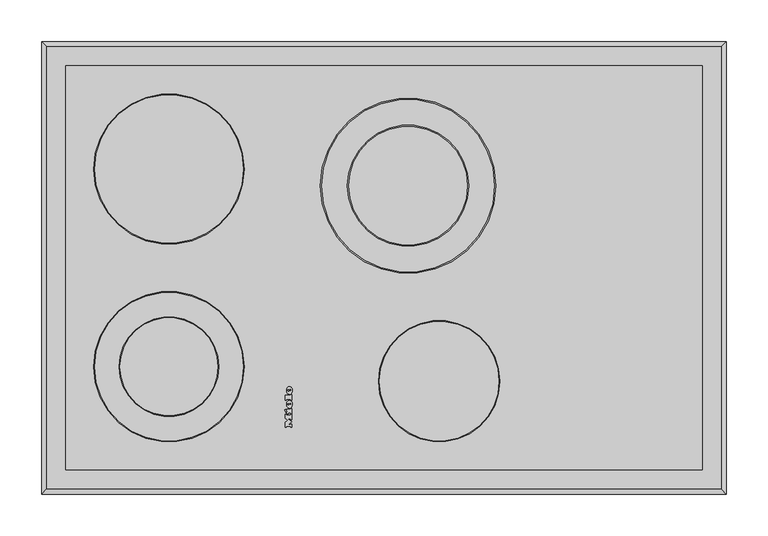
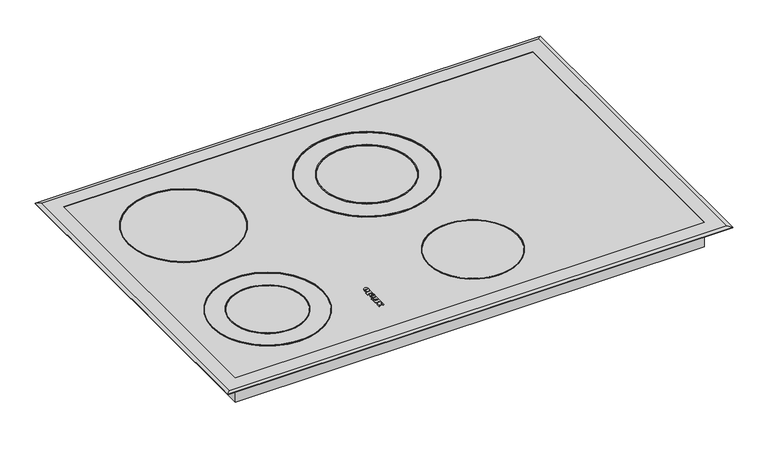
"""IFC4 building model written with IfcOpenShell, lengths in millimetres: proxy geometry, 06946450_CH_KM6039 : 26603950_CH_6946450_KM6039."""

from ifc_helpers import new_model, si_unit, point, frame, frame_2d, origin, origin_with_axes, place, context, project, spatial, polyline, circle_curve, ellipse_curve, trimmed, segment, composite_curve, outline, extrude, faceted_brep, source, transform, mapped, element, save
from ifc_brep_helpers import plane_surface, cylinder_surface, revolved_surface, extruded_surface, advanced_brep


def specialty_equipment_13e576dc(model_context):
    return source(origin(), model_context, "Body", "SolidModel", [
        extrude(outline(polyline([(-117.5714783, 80.6959278), (-118.8754783, 80.6959278), (-118.8754783, 86.2719278), (-115.8754783, 88.6159278), (-118.8754783, 90.9519278), (-118.8754783, 95.8239278), (-117.5714783, 95.8239278), (-117.5714783, 94.8079278), (-112.2194783, 94.8079278), (-112.2194783, 95.8239278), (-110.8754783, 95.8239278), (-110.8754783, 89.4399278), (-112.2194783, 89.4399278), (-112.2194783, 90.4239278), (-115.6907006, 90.4239278), (-110.8754783, 86.8319278), (-115.622603, 83.2559278), (-112.2194783, 83.2559278), (-112.2194783, 84.2159278), (-110.8754783, 84.2159278), (-110.8754783, 80.6959278), (-112.2194783, 80.6959278), (-112.2194783, 81.6639278), (-117.5714783, 81.6639278), (-117.5714783, 80.6959278)])), frame((0.0, 0.0, 1.0), z_axis=(0.0, 0.0, 1.0), x_axis=(1.0, 0.0, 0.0)), (0.0, 0.0, 1.0), 1.0),
        extrude(outline(polyline([(-117.5714783, 113.1599278), (-118.8754783, 113.1599278), (-118.8754783, 118.6639278), (-112.2194783, 118.6639278), (-112.2194783, 119.6479278), (-110.8754783, 119.6479278), (-110.8754783, 113.1599278), (-112.2194783, 113.1599278), (-112.2194783, 114.1199278), (-117.5714783, 114.1199278), (-117.5714783, 113.1599278)])), frame((0.0, 0.0, 1.0), z_axis=(0.0, 0.0, 1.0), x_axis=(1.0, 0.0, 0.0)), (0.0, 0.0, 1.0), 1.0),
        extrude(outline(polyline([(-118.4034783, 98.6159278), (-119.6674783, 101.3359278), (-118.3714783, 101.9359278), (-117.1074783, 99.2239278), (-118.4034783, 98.6159278)])), frame((0.0, 0.0, 1.0), z_axis=(0.0, 0.0, 1.0), x_axis=(1.0, 0.0, 0.0)), (0.0, 0.0, 1.0), 1.0),
        extrude(outline(polyline([(-116.9314783, 96.6399278), (-116.9314783, 102.0239278), (-112.2194783, 102.0239278), (-112.2194783, 102.9519278), (-110.8754783, 102.9519278), (-110.8754783, 96.6399278), (-112.2194783, 96.6399278), (-112.2194783, 97.5919278), (-115.4994783, 97.5919278), (-115.4994783, 96.6399278), (-116.9314783, 96.6399278)])), frame((0.0, 0.0, 1.0), z_axis=(0.0, 0.0, 1.0), x_axis=(1.0, 0.0, 0.0)), (0.0, 0.0, 1.0), 1.0),
        advanced_brep(
        [(-112.7714783, 107.3599278, 2.0), (-113.5794783, 107.3599278, 2.0), (-113.5794783, 112.7119278, 2.0), (-113.5794783, 103.3999278, 2.0), (-110.8754783, 105.5999278, 2.0), (-112.7714783, 112.5759278, 2.0), (-112.7714783, 110.1599278, 2.0), (-111.8754783, 108.2559278, 2.0), (-114.6034783, 107.3599278, 2.0), (-115.4754783, 107.3599278, 2.0), (-115.4754783, 108.7279278, 2.0), (-114.6034783, 108.7279278, 2.0), (-112.7714783, 107.3599278, 1.0), (-111.8754783, 108.2559278, 1.0), (-112.7714783, 110.1599278, 1.0), (-112.7714783, 112.5759278, 1.0), (-110.8754783, 105.5999278, 1.0), (-113.5794783, 103.3999278, 1.0), (-113.5794783, 112.7119278, 1.0), (-113.5794783, 107.3599278, 1.0), (-114.6034783, 107.3599278, 1.0), (-114.6034783, 108.7279278, 1.0), (-115.4754783, 108.7279278, 1.0), (-115.4754783, 107.3599278, 1.0)],
        [
            (0, 1),
            (1, 2),
            (2, 3, ellipse_curve(frame((-113.5794783, 108.0559278, 2.0), z_axis=(0.0, 0.0, 1.0), x_axis=(0.0, -1.0, 0.0)), 4.656, 3.848)),
            (3, 4, circle_curve(frame((-113.8514783, 106.4959715, 2.0), z_axis=(0.0, 0.0, 1.0), x_axis=(1.0, 0.0, 0.0)), 3.1079688)),
            (4, 5, circle_curve(frame((-115.9634783, 107.9627214, 2.0), z_axis=(0.0, 0.0, 1.0), x_axis=(1.0, 0.0, 0.0)), 5.6098607)),
            (5, 6),
            (6, 7, circle_curve(frame((-113.5154783, 108.6469866, 2.0), z_axis=(0.0, 0.0, -1.0), x_axis=(1.0, 0.0, 0.0)), 1.6859795)),
            (7, 0, circle_curve(frame((-112.7714783, 108.2559278, 2.0), z_axis=(0.0, 0.0, -1.0), x_axis=(1.0, 0.0, 0.0)), 0.896)),
            (8, 9),
            (9, 10, circle_curve(frame((-115.4754783, 108.0439278, 2.0), z_axis=(0.0, 0.0, -1.0), x_axis=(1.0, 0.0, 0.0)), 0.684)),
            (10, 11),
            (11, 8),
            (12, 13, circle_curve(frame((-112.7714783, 108.2559278, 1.0), z_axis=(0.0, 0.0, 1.0), x_axis=(1.0, 0.0, 0.0)), 0.896)),
            (13, 14, circle_curve(frame((-113.5154783, 108.6469866, 1.0), z_axis=(0.0, 0.0, 1.0), x_axis=(1.0, 0.0, 0.0)), 1.6859795)),
            (14, 15),
            (15, 16, circle_curve(frame((-115.9634783, 107.9627214, 1.0), z_axis=(0.0, 0.0, -1.0), x_axis=(1.0, 0.0, 0.0)), 5.6098607)),
            (16, 17, circle_curve(frame((-113.8514783, 106.4959715, 1.0), z_axis=(0.0, 0.0, -1.0), x_axis=(1.0, 0.0, 0.0)), 3.1079688)),
            (17, 18, ellipse_curve(frame((-113.5794783, 108.0559278, 1.0), z_axis=(0.0, 0.0, -1.0), x_axis=(0.0, -1.0, 0.0)), 4.656, 3.848)),
            (18, 19),
            (19, 12),
            (20, 21),
            (21, 22),
            (22, 23, circle_curve(frame((-115.4754783, 108.0439278, 1.0), z_axis=(0.0, 0.0, 1.0), x_axis=(1.0, 0.0, 0.0)), 0.684)),
            (23, 20),
            (0, 12),
            (19, 1),
            (18, 2),
            (5, 15),
            (14, 6),
            (17, 3),
            (13, 7),
            (16, 4),
            (8, 20),
            (23, 9),
            (22, 10),
            (21, 11),
        ],
        [
            plane_surface(frame((-113.5794783, 107.3599278, 2.0), z_axis=(0.0, 0.0, 1.0), x_axis=(-1.0, 0.0, 0.0))),
            plane_surface(frame((-113.5794783, 107.3599278, 1.0), z_axis=(0.0, 0.0, -1.0), x_axis=(1.0, 0.0, 0.0))),
            plane_surface(frame((-112.7714783, 107.3599278, 2.0), z_axis=(0.0, 1.0, 0.0), x_axis=(0.0, 0.0, -1.0))),
            plane_surface(frame((-113.5794783, 107.3599278, 2.0), z_axis=(1.0, 0.0, 0.0), x_axis=(0.0, 0.0, -1.0))),
            plane_surface(frame((-112.7714783, 112.5759278, 2.0), z_axis=(-1.0, 0.0, 0.0), x_axis=(0.0, 0.0, -1.0))),
            extruded_surface(trimmed(ellipse_curve(frame((-113.5794783, 108.0559278, 0.0), z_axis=(0.0, 0.0, 1.0), x_axis=(0.0, -1.0, 0.0)), 4.656, 3.848), [point((-113.5794783, 112.7119278, 0.0))], [point((-113.5794783, 103.3999278, 0.0))], True, "CARTESIAN"), (0.0, 0.0, 1.0), 1.0),
            revolved_surface(polyline([(-111.8294988, 108.6469866, 1.0), (-111.8294988, 108.6469866, 2.0)]), (-113.5154783, 108.6469866, 1.0), (0.0, 0.0, -1.0)),
            revolved_surface(polyline([(-111.8754783, 108.2559278, 1.0), (-111.8754783, 108.2559278, 2.0)]), (-112.7714783, 108.2559278, 1.0), (0.0, 0.0, -1.0)),
            cylinder_surface(frame((-113.8514783, 106.4959715, 1.0), z_axis=(0.0, 0.0, 1.0), x_axis=(1.0, 0.0, 0.0)), 3.1079688),
            cylinder_surface(frame((-115.9634783, 107.9627214, 1.0), z_axis=(0.0, 0.0, 1.0), x_axis=(1.0, 0.0, 0.0)), 5.6098607),
            plane_surface(frame((-114.6034783, 107.3599278, 2.0), z_axis=(0.0, 1.0, 0.0), x_axis=(0.0, 0.0, -1.0))),
            revolved_surface(polyline([(-114.79147830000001, 108.0439278, 1.0), (-114.79147830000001, 108.0439278, 2.0)]), (-115.4754783, 108.0439278, 1.0), (0.0, 0.0, -1.0)),
            plane_surface(frame((-115.4754783, 108.7279278, 2.0), z_axis=(0.0, -1.0, 0.0), x_axis=(0.0, 0.0, -1.0))),
            plane_surface(frame((-114.6034783, 108.7279278, 2.0), z_axis=(-1.0, 0.0, 0.0), x_axis=(0.0, 0.0, -1.0))),
        ],
        [
            (0, [[1, 2, 3, 4, 5, 6, 7, 8], [9, 10, 11, 12]]),
            (1, [[13, 14, 15, 16, 17, 18, 19, 20], [21, 22, 23, 24]]),
            (2, [[-1, 25, -20, 26]]),
            (3, [[-2, -26, -19, 27]]),
            (4, [[-6, 28, -15, 29]]),
            (5, [[-3, -27, -18, 30]]),
            (6, [[-7, -29, -14, 31]]),
            (7, [[-8, -31, -13, -25]]),
            (8, [[-4, -30, -17, 32]]),
            (9, [[-5, -32, -16, -28]]),
            (10, [[-9, 33, -24, 34]]),
            (11, [[-10, -34, -23, 35]]),
            (12, [[-11, -35, -22, 36]]),
            (13, [[-12, -36, -21, -33]]),
        ],
    ),
        advanced_brep(
        [(-112.7714783, 124.0559278, 2.0), (-113.5794783, 124.0559278, 2.0), (-113.5794783, 129.4079278, 2.0), (-113.5794783, 120.0959278, 2.0), (-110.8754783, 122.2959278, 2.0), (-112.7714783, 129.2719278, 2.0), (-112.7714783, 126.8559278, 2.0), (-111.8754783, 124.9519278, 2.0), (-114.6034783, 124.0559278, 2.0), (-115.4754783, 124.0559278, 2.0), (-115.4754783, 125.4239278, 2.0), (-114.6034783, 125.4239278, 2.0), (-112.7714783, 124.0559278, 1.0), (-111.8754783, 124.9519278, 1.0), (-112.7714783, 126.8559278, 1.0), (-112.7714783, 129.2719278, 1.0), (-110.8754783, 122.2959278, 1.0), (-113.5794783, 120.0959278, 1.0), (-113.5794783, 129.4079278, 1.0), (-113.5794783, 124.0559278, 1.0), (-114.6034783, 124.0559278, 1.0), (-114.6034783, 125.4239278, 1.0), (-115.4754783, 125.4239278, 1.0), (-115.4754783, 124.0559278, 1.0)],
        [
            (0, 1),
            (1, 2),
            (2, 3, ellipse_curve(frame((-113.5794783, 124.7519278, 2.0), z_axis=(0.0, 0.0, 1.0), x_axis=(0.0, -1.0, 0.0)), 4.656, 3.848)),
            (3, 4, circle_curve(frame((-113.8514783, 123.1919715, 2.0), z_axis=(0.0, 0.0, 1.0), x_axis=(1.0, 0.0, 0.0)), 3.1079688)),
            (4, 5, circle_curve(frame((-115.9634783, 124.6587214, 2.0), z_axis=(0.0, 0.0, 1.0), x_axis=(1.0, 0.0, 0.0)), 5.6098607)),
            (5, 6),
            (6, 7, circle_curve(frame((-113.5154783, 125.3429866, 2.0), z_axis=(0.0, 0.0, -1.0), x_axis=(1.0, 0.0, 0.0)), 1.6859795)),
            (7, 0, circle_curve(frame((-112.7714783, 124.9519278, 2.0), z_axis=(0.0, 0.0, -1.0), x_axis=(1.0, 0.0, 0.0)), 0.896)),
            (8, 9),
            (9, 10, circle_curve(frame((-115.4754783, 124.7399278, 2.0), z_axis=(0.0, 0.0, -1.0), x_axis=(1.0, 0.0, 0.0)), 0.684)),
            (10, 11),
            (11, 8),
            (12, 13, circle_curve(frame((-112.7714783, 124.9519278, 1.0), z_axis=(0.0, 0.0, 1.0), x_axis=(1.0, 0.0, 0.0)), 0.896)),
            (13, 14, circle_curve(frame((-113.5154783, 125.3429866, 1.0), z_axis=(0.0, 0.0, 1.0), x_axis=(1.0, 0.0, 0.0)), 1.6859795)),
            (14, 15),
            (15, 16, circle_curve(frame((-115.9634783, 124.6587214, 1.0), z_axis=(0.0, 0.0, -1.0), x_axis=(1.0, 0.0, 0.0)), 5.6098607)),
            (16, 17, circle_curve(frame((-113.8514783, 123.1919715, 1.0), z_axis=(0.0, 0.0, -1.0), x_axis=(1.0, 0.0, 0.0)), 3.1079688)),
            (17, 18, ellipse_curve(frame((-113.5794783, 124.7519278, 1.0), z_axis=(0.0, 0.0, -1.0), x_axis=(0.0, -1.0, 0.0)), 4.656, 3.848)),
            (18, 19),
            (19, 12),
            (20, 21),
            (21, 22),
            (22, 23, circle_curve(frame((-115.4754783, 124.7399278, 1.0), z_axis=(0.0, 0.0, 1.0), x_axis=(1.0, 0.0, 0.0)), 0.684)),
            (23, 20),
            (0, 12),
            (19, 1),
            (18, 2),
            (5, 15),
            (14, 6),
            (17, 3),
            (13, 7),
            (16, 4),
            (8, 20),
            (23, 9),
            (22, 10),
            (21, 11),
        ],
        [
            plane_surface(frame((-113.5794783, 124.0559278, 2.0), z_axis=(0.0, 0.0, 1.0), x_axis=(-1.0, 0.0, 0.0))),
            plane_surface(frame((-113.5794783, 124.0559278, 1.0), z_axis=(0.0, 0.0, -1.0), x_axis=(1.0, 0.0, 0.0))),
            plane_surface(frame((-112.7714783, 124.0559278, 2.0), z_axis=(0.0, 1.0, 0.0), x_axis=(0.0, 0.0, -1.0))),
            plane_surface(frame((-113.5794783, 124.0559278, 2.0), z_axis=(1.0, 0.0, 0.0), x_axis=(0.0, 0.0, -1.0))),
            plane_surface(frame((-112.7714783, 129.2719278, 2.0), z_axis=(-1.0, 0.0, 0.0), x_axis=(0.0, 0.0, -1.0))),
            extruded_surface(trimmed(ellipse_curve(frame((-113.5794783, 124.7519278, 0.0), z_axis=(0.0, 0.0, 1.0), x_axis=(0.0, -1.0, 0.0)), 4.656, 3.848), [point((-113.5794783, 129.4079278, 0.0))], [point((-113.5794783, 120.0959278, 0.0))], True, "CARTESIAN"), (0.0, 0.0, 1.0), 1.0),
            revolved_surface(polyline([(-111.8294988, 125.3429866, 1.0), (-111.8294988, 125.3429866, 2.0)]), (-113.5154783, 125.3429866, 1.0), (0.0, 0.0, -1.0)),
            revolved_surface(polyline([(-111.8754783, 124.9519278, 1.0), (-111.8754783, 124.9519278, 2.0)]), (-112.7714783, 124.9519278, 1.0), (0.0, 0.0, -1.0)),
            cylinder_surface(frame((-113.8514783, 123.1919715, 1.0), z_axis=(0.0, 0.0, 1.0), x_axis=(1.0, 0.0, 0.0)), 3.1079688),
            cylinder_surface(frame((-115.9634783, 124.6587214, 1.0), z_axis=(0.0, 0.0, 1.0), x_axis=(1.0, 0.0, 0.0)), 5.6098607),
            plane_surface(frame((-114.6034783, 124.0559278, 2.0), z_axis=(0.0, 1.0, 0.0), x_axis=(0.0, 0.0, -1.0))),
            revolved_surface(polyline([(-114.79147830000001, 124.7399278, 1.0), (-114.79147830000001, 124.7399278, 2.0)]), (-115.4754783, 124.7399278, 1.0), (0.0, 0.0, -1.0)),
            plane_surface(frame((-115.4754783, 125.4239278, 2.0), z_axis=(0.0, -1.0, 0.0), x_axis=(0.0, 0.0, -1.0))),
            plane_surface(frame((-114.6034783, 125.4239278, 2.0), z_axis=(-1.0, 0.0, 0.0), x_axis=(0.0, 0.0, -1.0))),
        ],
        [
            (0, [[1, 2, 3, 4, 5, 6, 7, 8], [9, 10, 11, 12]]),
            (1, [[13, 14, 15, 16, 17, 18, 19, 20], [21, 22, 23, 24]]),
            (2, [[-1, 25, -20, 26]]),
            (3, [[-2, -26, -19, 27]]),
            (4, [[-6, 28, -15, 29]]),
            (5, [[-3, -27, -18, 30]]),
            (6, [[-7, -29, -14, 31]]),
            (7, [[-8, -31, -13, -25]]),
            (8, [[-4, -30, -17, 32]]),
            (9, [[-5, -32, -16, -28]]),
            (10, [[-9, 33, -24, 34]]),
            (11, [[-10, -34, -23, 35]]),
            (12, [[-11, -35, -22, 36]]),
            (13, [[-12, -36, -21, -33]]),
        ],
    ),
        extrude(outline(composite_curve([segment(trimmed(circle_curve(frame_2d((-259.0, 391.35)), 90.5), [point((-349.5, 391.35))], [point((-168.5, 391.35))], False, "CARTESIAN"), True, "CONTINUOUS"), segment(trimmed(circle_curve(frame_2d((-259.0, 391.35)), 90.5), [point((-168.5, 391.35))], [point((-349.5, 391.35))], False, "CARTESIAN"), True, "CONTINUOUS")], self_intersect=False), holes=[composite_curve([segment(trimmed(circle_curve(frame_2d((-259.0, 391.35)), 89.5), [point((-348.5, 391.35))], [point((-169.5, 391.35))], True, "CARTESIAN"), True, "CONTINUOUS"), segment(trimmed(circle_curve(frame_2d((-259.0, 391.35)), 89.5), [point((-169.5, 391.35))], [point((-348.5, 391.35))], True, "CARTESIAN"), True, "CONTINUOUS")], self_intersect=False)]), frame((0.0, 0.0, 1.0), z_axis=(0.0, 0.0, 1.0), x_axis=(1.0, 0.0, 0.0)), (0.0, 0.0, 1.0), 1.0),
        extrude(outline(composite_curve([segment(trimmed(circle_curve(frame_2d((-259.0, 153.35)), 90.5), [point((-349.5, 153.35))], [point((-168.5, 153.35))], False, "CARTESIAN"), True, "CONTINUOUS"), segment(trimmed(circle_curve(frame_2d((-259.0, 153.35)), 90.5), [point((-168.5, 153.35))], [point((-349.5, 153.35))], False, "CARTESIAN"), True, "CONTINUOUS")], self_intersect=False), holes=[composite_curve([segment(trimmed(circle_curve(frame_2d((-259.0, 153.35)), 89.5), [point((-348.5, 153.35))], [point((-169.5, 153.35))], True, "CARTESIAN"), True, "CONTINUOUS"), segment(trimmed(circle_curve(frame_2d((-259.0, 153.35)), 89.5), [point((-169.5, 153.35))], [point((-348.5, 153.35))], True, "CARTESIAN"), True, "CONTINUOUS")], self_intersect=False)]), frame((0.0, 0.0, 1.0), z_axis=(0.0, 0.0, 1.0), x_axis=(1.0, 0.0, 0.0)), (0.0, 0.0, 1.0), 1.0),
        extrude(outline(composite_curve([segment(trimmed(circle_curve(frame_2d((29.0, 371.35)), 105.5), [point((-76.5, 371.35))], [point((134.5, 371.35))], False, "CARTESIAN"), True, "CONTINUOUS"), segment(trimmed(circle_curve(frame_2d((29.0, 371.35)), 105.5), [point((134.5, 371.35))], [point((-76.5, 371.35))], False, "CARTESIAN"), True, "CONTINUOUS")], self_intersect=False), holes=[composite_curve([segment(trimmed(circle_curve(frame_2d((29.0, 371.35)), 104.0), [point((-75.0, 371.35))], [point((133.0, 371.35))], True, "CARTESIAN"), True, "CONTINUOUS"), segment(trimmed(circle_curve(frame_2d((29.0, 371.35)), 104.0), [point((133.0, 371.35))], [point((-75.0, 371.35))], True, "CARTESIAN"), True, "CONTINUOUS")], self_intersect=False)]), frame((0.0, 0.0, 1.0), z_axis=(0.0, 0.0, 1.0), x_axis=(1.0, 0.0, 0.0)), (0.0, 0.0, 1.0), 1.0),
        extrude(outline(composite_curve([segment(trimmed(circle_curve(frame_2d((66.5, 135.85)), 73.0), [point((-6.5, 135.85))], [point((139.5, 135.85))], False, "CARTESIAN"), True, "CONTINUOUS"), segment(trimmed(circle_curve(frame_2d((66.5, 135.85)), 73.0), [point((139.5, 135.85))], [point((-6.5, 135.85))], False, "CARTESIAN"), True, "CONTINUOUS")], self_intersect=False), holes=[composite_curve([segment(trimmed(circle_curve(frame_2d((66.5, 135.85)), 72.0), [point((-5.5, 135.85))], [point((138.5, 135.85))], True, "CARTESIAN"), True, "CONTINUOUS"), segment(trimmed(circle_curve(frame_2d((66.5, 135.85)), 72.0), [point((138.5, 135.85))], [point((-5.5, 135.85))], True, "CARTESIAN"), True, "CONTINUOUS")], self_intersect=False)]), frame((0.0, 0.0, 1.0), z_axis=(0.0, 0.0, 1.0), x_axis=(1.0, 0.0, 0.0)), (0.0, 0.0, 1.0), 1.0),
        extrude(outline(composite_curve([segment(trimmed(circle_curve(frame_2d((-259.0, 153.35)), 60.0), [point((-319.0, 153.35))], [point((-199.0, 153.35))], False, "CARTESIAN"), True, "CONTINUOUS"), segment(trimmed(circle_curve(frame_2d((-259.0, 153.35)), 60.0), [point((-199.0, 153.35))], [point((-319.0, 153.35))], False, "CARTESIAN"), True, "CONTINUOUS")], self_intersect=False), holes=[composite_curve([segment(trimmed(circle_curve(frame_2d((-259.0, 153.35)), 59.0), [point((-318.0, 153.35))], [point((-200.0, 153.35))], True, "CARTESIAN"), True, "CONTINUOUS"), segment(trimmed(circle_curve(frame_2d((-259.0, 153.35)), 59.0), [point((-200.0, 153.35))], [point((-318.0, 153.35))], True, "CARTESIAN"), True, "CONTINUOUS")], self_intersect=False)]), frame((0.0, 0.0, 1.0), z_axis=(0.0, 0.0, 1.0), x_axis=(1.0, 0.0, 0.0)), (0.0, 0.0, 1.0), 1.0),
        extrude(outline(composite_curve([segment(trimmed(circle_curve(frame_2d((29.0, 371.35)), 73.0), [point((-44.0, 371.35))], [point((102.0, 371.35))], False, "CARTESIAN"), True, "CONTINUOUS"), segment(trimmed(circle_curve(frame_2d((29.0, 371.35)), 73.0), [point((102.0, 371.35))], [point((-44.0, 371.35))], False, "CARTESIAN"), True, "CONTINUOUS")], self_intersect=False), holes=[composite_curve([segment(trimmed(circle_curve(frame_2d((29.0, 371.35)), 71.5), [point((-42.5, 371.35))], [point((100.5, 371.35))], True, "CARTESIAN"), True, "CONTINUOUS"), segment(trimmed(circle_curve(frame_2d((29.0, 371.35)), 71.5), [point((100.5, 371.35))], [point((-42.5, 371.35))], True, "CARTESIAN"), True, "CONTINUOUS")], self_intersect=False)]), frame((0.0, 0.0, 1.0), z_axis=(0.0, 0.0, 1.0), x_axis=(1.0, 0.0, 0.0)), (0.0, 0.0, 1.0), 1.0),
        extrude(outline(polyline([(383.2, 515.8), (383.2, 29.2), (-383.2, 29.2), (-383.2, 515.8), (383.2, 515.8)])), origin_with_axes(), (0.0, 0.0, 1.0), 1.0),
        faceted_brep([(412.5, 545.0, 0.7878462), (406.5221174, 539.0221174, 1.841889), (406.5221174, 5.9778826, 1.841889), (412.5, 0.0, 0.7878462), (383.3, 515.8, 1.841889), (383.3, 515.8, 0.0), (383.3, 29.2, 0.0), (383.3, 29.2, 1.841889), (408.2283325, 540.7283325, 0.0), (410.8890837, 543.3890837, 0.2595486), (410.8890837, 1.6109163, 0.2595486), (408.2283325, 4.2716675, 0.0), (-408.2283325, 540.7283325, 0.0), (-410.8890837, 543.3890837, 0.2595486), (412.361084, 544.861084, 0.0), (412.361084, 0.138916, 0.0), (-412.361084, 0.138916, 0.0), (-410.8890837, 1.6109163, 0.2595486), (-408.2283325, 4.2716675, 0.0), (-383.3, 29.2, 0.0), (-383.3, 29.2, 1.841889), (-406.5221174, 5.9778826, 1.841889), (-412.5, 0.0, 0.7878462), (-412.361084, 544.861084, 0.0), (-383.3, 515.8, 0.0), (-383.3, 515.8, 1.841889), (-406.5221174, 539.0221174, 1.841889), (-412.5, 545.0, 0.7878462)], [[[0, 1, 2, 3]], [[4, 5, 6, 7]], [[8, 9, 10, 11]], [[12, 13, 9, 8]], [[9, 14, 15, 10]], [[14, 0, 3, 15]], [[10, 15, 16, 17]], [[11, 10, 17, 18]], [[7, 6, 19, 20]], [[3, 2, 21, 22]], [[15, 3, 22, 16]], [[17, 16, 23, 13]], [[18, 17, 13, 12]], [[20, 19, 24, 25]], [[22, 21, 26, 27]], [[16, 22, 27, 23]], [[13, 23, 14, 9]], [[11, 18, 12, 8], [5, 24, 19, 6]], [[25, 24, 5, 4]], [[27, 26, 1, 0]], [[23, 27, 0, 14]], [[1, 26, 21, 2], [7, 20, 25, 4]]]),
        extrude(outline(polyline([(-96.0, 447.2441519), (-147.0, 447.2441519), (-147.0, 493.0), (-96.0, 493.0), (-96.0, 447.2441519)])), frame((0.0, 0.0, -46.2000009), z_axis=(0.0, 0.0, 1.0), x_axis=(1.0, 0.0, 0.0)), (0.0, 0.0, 1.0), 5.9000009),
        extrude(outline(polyline([(383.3, 29.2), (-383.3, 29.2), (-383.3, 515.8), (383.3, 515.8), (383.3, 29.2)])), frame((0.0, 0.0, -40.3), z_axis=(0.0, 0.0, 1.0), x_axis=(1.0, 0.0, 0.0)), (0.0, 0.0, 1.0), 40.3),
        extrude(outline(composite_curve([segment(trimmed(circle_curve(frame_2d((-121.5, 478.0)), 8.0), [point((-129.5, 478.0))], [point((-113.5, 478.0))], False, "CARTESIAN"), True, "CONTINUOUS"), segment(trimmed(circle_curve(frame_2d((-121.5, 478.0)), 8.0), [point((-113.5, 478.0))], [point((-129.5, 478.0))], False, "CARTESIAN"), True, "CONTINUOUS")], self_intersect=False)), frame((0.0, 0.0, -76.2000009), z_axis=(0.0, 0.0, 1.0), x_axis=(1.0, 0.0, 0.0)), (0.0, 0.0, 1.0), 30.0),
        extrude(outline(polyline([(-127.4018082, 474.1466908), (-127.4018082, 482.1831956), (-121.6255704, 482.1831956), (-121.6255704, 481.1786325), (-126.3972451, 481.1786325), (-126.3972451, 478.7927952), (-121.8767112, 478.7927952), (-121.8767112, 477.7882321), (-126.3972451, 477.7882321), (-126.3972451, 475.1512539), (-121.5, 475.1512539), (-121.5, 474.1466908), (-127.4018082, 474.1466908)])), frame((0.0, 0.0, -77.2000009), z_axis=(0.0, 0.0, 1.0), x_axis=(1.0, 0.0, 0.0)), (0.0, 0.0, 1.0), 1.0),
        extrude(outline(polyline([(-119.9931553, 474.1466908), (-119.9931553, 482.1831956), (-118.9885922, 482.1831956), (-118.9885922, 475.1512539), (-114.9703398, 475.1512539), (-114.9703398, 474.1466908), (-119.9931553, 474.1466908)])), frame((0.0, 0.0, -77.2000009), z_axis=(0.0, 0.0, 1.0), x_axis=(1.0, 0.0, 0.0)), (0.0, 0.0, 1.0), 1.0),
    ])


if __name__ == "__main__":
    model = new_model("IFC4")
    model_context = context("Model", 3, world=origin())
    ifc_project = project(units=[si_unit("LENGTHUNIT", "METRE", prefix="MILLI")], contexts=[model_context])
    site = spatial("IfcSite", under=ifc_project)
    building = spatial("IfcBuilding", under=site)
    placement = place(None, origin())
    specialty_equipment_shape = specialty_equipment_13e576dc(model_context)
    element("IfcBuildingElementProxy", 1, Name="06946450_CH_KM6039 : 26603950_CH_6946450_KM6039", ObjectType="06946450_CH_KM6039 : 26603950_CH_6946450_KM6039", at=placement, inside=building, context=model_context, shape_type="MappedRepresentation", body=[
        mapped(specialty_equipment_shape, transform((0.0, 0.0, 0.0), x_axis=(1.0, 0.0, 0.0), y_axis=(0.0, 1.0, 0.0), z_axis=(0.0, 0.0, 1.0))),
    ])
    save(model, "model.ifc")
